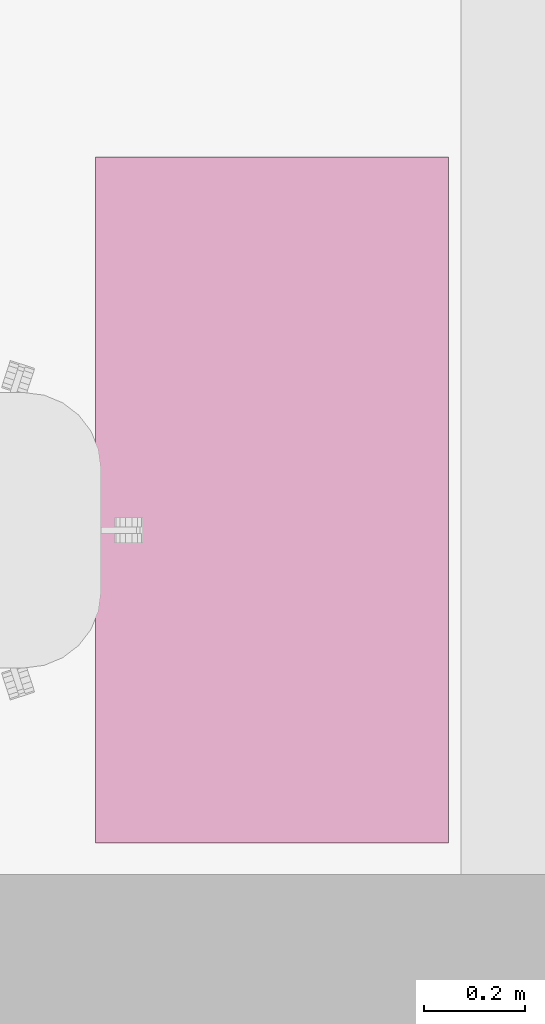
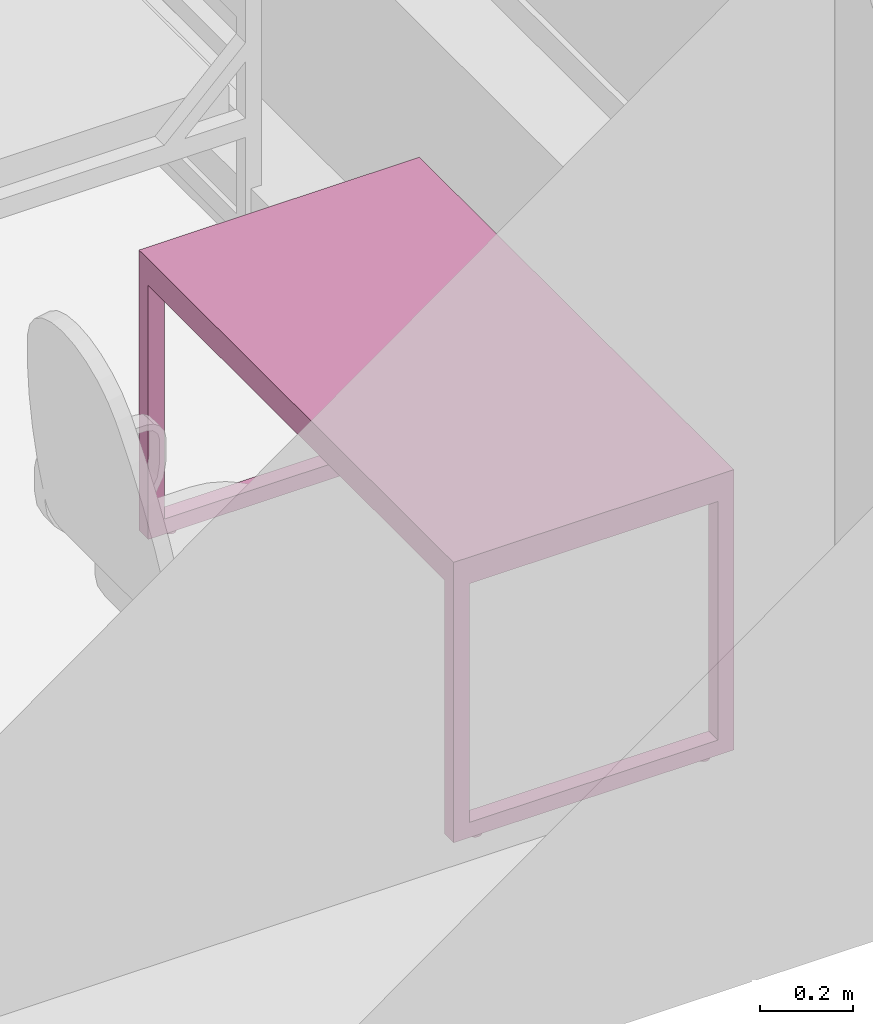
# One storey, part 41 of 46: 1 furnishing.
"""IFC2X3 building model written with IfcOpenShell, lengths in millimetres."""

from ifc_helpers import new_model, entity, si_unit, converted_unit, derived_unit, direction, frame, origin, place, context, subcontext, project, spatial, faceted_brep, source, transform, mapped, material, material_list, type_object, type_shapes, element, save


model = new_model("IFC2X3")

# Units and contexts
model_context = context("Model", 3, precision=0.01, world=origin(), true_north=direction((6.12303176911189e-17, 1.0)))
body_context = subcontext(model_context, "Body", "Model", "MODEL_VIEW")
ifc_project = project(units=[si_unit("LENGTHUNIT", "METRE", prefix="MILLI"), si_unit("AREAUNIT", "SQUARE_METRE"), si_unit("VOLUMEUNIT", "CUBIC_METRE"), converted_unit("PLANEANGLEUNIT", "DEGREE", entity("IfcRatioMeasure", 0.0174532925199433), si_unit("PLANEANGLEUNIT", "RADIAN"), dimensions=[0, 0, 0, 0, 0, 0, 0]), si_unit("MASSUNIT", "GRAM", prefix="KILO"), derived_unit("MASSDENSITYUNIT", [(si_unit("MASSUNIT", "GRAM", prefix="KILO"), 1), (si_unit("LENGTHUNIT", "METRE"), -3)]), si_unit("TIMEUNIT", "SECOND"), si_unit("FREQUENCYUNIT", "HERTZ"), si_unit("THERMODYNAMICTEMPERATUREUNIT", "DEGREE_CELSIUS"), derived_unit("THERMALTRANSMITTANCEUNIT", [(si_unit("MASSUNIT", "GRAM", prefix="KILO"), 1), (si_unit("THERMODYNAMICTEMPERATUREUNIT", "KELVIN"), -1), (si_unit("TIMEUNIT", "SECOND"), -3)]), derived_unit("VOLUMETRICFLOWRATEUNIT", [(si_unit("LENGTHUNIT", "METRE"), 3), (si_unit("TIMEUNIT", "SECOND"), -1)]), si_unit("ELECTRICCURRENTUNIT", "AMPERE"), si_unit("ELECTRICVOLTAGEUNIT", "VOLT"), si_unit("POWERUNIT", "WATT"), si_unit("FORCEUNIT", "NEWTON", prefix="KILO"), si_unit("ILLUMINANCEUNIT", "LUX"), si_unit("LUMINOUSFLUXUNIT", "LUMEN"), si_unit("LUMINOUSINTENSITYUNIT", "CANDELA"), derived_unit("USERDEFINED", [(si_unit("MASSUNIT", "GRAM", prefix="KILO"), -1), (si_unit("LENGTHUNIT", "METRE"), -2), (si_unit("TIMEUNIT", "SECOND"), 3), (si_unit("LUMINOUSFLUXUNIT", "LUMEN"), 1)]), derived_unit("LINEARVELOCITYUNIT", [(si_unit("LENGTHUNIT", "METRE"), 1), (si_unit("TIMEUNIT", "SECOND"), -1)]), si_unit("PRESSUREUNIT", "PASCAL"), derived_unit("USERDEFINED", [(si_unit("LENGTHUNIT", "METRE"), -2), (si_unit("MASSUNIT", "GRAM", prefix="KILO"), 1), (si_unit("TIMEUNIT", "SECOND"), -2)]), derived_unit("LINEARFORCEUNIT", [(si_unit("MASSUNIT", "GRAM", prefix="KILO"), 1), (si_unit("LENGTHUNIT", "METRE"), 1), (si_unit("TIMEUNIT", "SECOND"), -2), (si_unit("LENGTHUNIT", "METRE"), -1)]), derived_unit("PLANARFORCEUNIT", [(si_unit("MASSUNIT", "GRAM", prefix="KILO"), 1), (si_unit("LENGTHUNIT", "METRE"), 1), (si_unit("TIMEUNIT", "SECOND"), -2), (si_unit("LENGTHUNIT", "METRE"), -2)])], contexts=[model_context])

# Site, building, storey, space
site_placement = place(None, origin())
site = spatial("IfcSite", under=ifc_project, at=site_placement, Name="Default", CompositionType="ELEMENT")
building_placement = place(site_placement, origin())
building = spatial("IfcBuilding", under=site, at=building_placement, Name="SMA ARH", CompositionType="ELEMENT")
storey_placement = place(building_placement, frame((0.0, 0.0, 9910.0)))
storey = spatial("IfcBuildingStorey", under=building, at=storey_placement, Name="4 Korrus", CompositionType="ELEMENT", Elevation=9909.9999999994)
space_placement = place(storey_placement, origin())
space = spatial("IfcSpace", under=storey, at=space_placement, Name="4-1", CompositionType="ELEMENT", InteriorOrExteriorSpace="INTERNAL")

# Furnishing
ifc_material = material(Name="<Unnamed>")
ifc_material_list = material_list([ifc_material, ifc_material])
furniture_type = type_object("IfcFurnitureType", Name="kirjutuslaud 1360x700mm:kirjutuslaud 1360x700mm", material=ifc_material_list)
shared_shape = source(origin(), body_context, "Body", "Brep", [
    faceted_brep([(680.0, -350.0, 720.0), (680.0, 350.0, 720.0), (680.0, 350.0, 750.0), (680.0, -350.0, 750.0), (-680.0, -350.0, 720.0), (-680.0, -350.0, 750.0), (-680.0, 350.0, 750.0), (-680.0, 350.0, 720.0)], [[[0, 1, 2, 3]], [[4, 5, 6, 7]], [[1, 0, 4, 7]], [[2, 1, 7, 6]], [[3, 2, 6, 5]], [[0, 3, 5, 4]]]),
    faceted_brep([(-640.0, -310.0, 680.0), (-640.0, 310.0, 680.0), (-640.0, 310.0, 720.0), (-640.0, -310.0, 720.0), (-680.0, -350.0, 720.0), (-680.0, 350.0, 720.0), (-680.0, 350.0, 10.0), (-680.0, -350.0, 10.0), (-680.0, 310.0, 680.0), (-680.0, -310.0, 680.0), (-680.0, -310.0, 50.0), (-680.0, 310.0, 50.0), (-640.0, -350.0, 10.0), (-640.0, -350.0, 680.0), (640.0, -350.0, 680.0), (640.0, -350.0, 10.0), (680.0, -350.0, 10.0), (680.0, -350.0, 720.0), (-640.0, 350.0, 10.0), (680.0, 350.0, 720.0), (680.0, 350.0, 10.0), (640.0, 350.0, 10.0), (640.0, 350.0, 680.0), (-640.0, 350.0, 680.0), (640.0, 310.0, 720.0), (640.0, -310.0, 720.0), (-640.0, 310.0, 50.0), (-640.0, -310.0, 50.0), (640.0, -310.0, 680.0), (640.0, 310.0, 680.0), (680.0, 310.0, 680.0), (680.0, 310.0, 50.0), (680.0, -310.0, 50.0), (680.0, -310.0, 680.0), (640.0, -310.0, 50.0), (640.0, 310.0, 50.0)], [[[0, 1, 2, 3]], [[4, 5, 6, 7], [8, 9, 10, 11]], [[4, 7, 12, 13, 14, 15, 16, 17]], [[18, 12, 7, 6]], [[6, 5, 19, 20, 21, 22, 23, 18]], [[19, 5, 4, 17], [2, 24, 25, 3]], [[26, 1, 8, 11]], [[27, 26, 11, 10]], [[0, 27, 10, 9]], [[1, 0, 9, 8]], [[14, 13, 0, 28]], [[24, 2, 1, 29]], [[3, 25, 28, 0]], [[17, 16, 20, 19], [30, 31, 32, 33]], [[21, 15, 14, 28, 34, 35, 29, 22]], [[20, 16, 15, 21]], [[31, 30, 29, 35]], [[32, 31, 35, 34]], [[33, 32, 34, 28]], [[30, 33, 28, 29]], [[29, 28, 25, 24]], [[29, 1, 23, 22]], [[12, 18, 23, 1, 26, 27, 0, 13]]]),
    faceted_brep([(-663.729456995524, -270.466136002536, 0.0), (-659.847171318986, -269.955023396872, 0.0), (-655.964885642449, -270.466136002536, 0.0), (-652.347171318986, -271.964642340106, 0.0), (-649.240569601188, -274.348421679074, 0.0), (-646.85679026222, -277.455023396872, 0.0), (-645.35828392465, -281.072737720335, 0.0), (-644.847171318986, -284.955023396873, 0.0), (-645.35828392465, -288.83730907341, 0.0), (-646.85679026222, -292.455023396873, 0.0), (-649.240569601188, -295.561625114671, 0.0), (-652.347171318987, -297.945404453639, 0.0), (-655.964885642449, -299.443910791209, 0.0), (-659.847171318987, -299.955023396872, 0.0), (-663.729456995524, -299.443910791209, 0.0), (-667.347171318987, -297.945404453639, 0.0), (-670.453773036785, -295.561625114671, 0.0), (-672.837552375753, -292.455023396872, 0.0), (-674.336058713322, -288.83730907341, 0.0), (-674.847171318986, -284.955023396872, 0.0), (-674.336058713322, -281.072737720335, 0.0), (-672.837552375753, -277.455023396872, 0.0), (-670.453773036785, -274.348421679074, 0.0), (-667.347171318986, -271.964642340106, 0.0), (-655.964885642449, -299.443910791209, 10.0), (-652.347171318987, -297.945404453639, 10.0), (-649.240569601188, -295.561625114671, 10.0), (-646.85679026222, -292.455023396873, 10.0), (-645.35828392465, -288.83730907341, 10.0), (-644.847171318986, -284.955023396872, 10.0), (-645.35828392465, -281.072737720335, 10.0), (-646.85679026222, -277.455023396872, 10.0), (-649.240569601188, -274.348421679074, 10.0), (-652.347171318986, -271.964642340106, 10.0), (-655.964885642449, -270.466136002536, 10.0), (-659.847171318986, -269.955023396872, 10.0), (-663.729456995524, -270.466136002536, 10.0), (-667.347171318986, -271.964642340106, 10.0), (-670.453773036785, -274.348421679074, 10.0), (-672.837552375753, -277.455023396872, 10.0), (-674.336058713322, -281.072737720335, 10.0), (-674.847171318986, -284.955023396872, 10.0), (-674.336058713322, -288.83730907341, 10.0), (-672.837552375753, -292.455023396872, 10.0), (-670.453773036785, -295.561625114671, 10.0), (-667.347171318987, -297.945404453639, 10.0), (-663.729456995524, -299.443910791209, 10.0), (-659.847171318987, -299.955023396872, 10.0)], [[[0, 1, 2, 3, 4, 5, 6, 7, 8, 9, 10, 11, 12, 13, 14, 15, 16, 17, 18, 19, 20, 21, 22, 23]], [[24, 25, 26, 27, 28, 29, 30, 31, 32, 33, 34, 35, 36, 37, 38, 39, 40, 41, 42, 43, 44, 45, 46, 47]], [[18, 42, 41, 19]], [[17, 43, 42, 18]], [[45, 44, 16, 15]], [[17, 16, 44, 43]], [[46, 45, 15, 14]], [[47, 46, 14, 13]], [[12, 24, 47, 13]], [[11, 25, 24, 12]], [[27, 26, 10, 9]], [[11, 10, 26, 25]], [[28, 27, 9, 8]], [[29, 28, 8, 7]], [[6, 30, 29, 7]], [[5, 31, 30, 6]], [[33, 32, 4, 3]], [[5, 4, 32, 31]], [[34, 33, 3, 2]], [[35, 34, 2, 1]], [[0, 36, 35, 1]], [[23, 37, 36, 0]], [[39, 38, 22, 21]], [[23, 22, 38, 37]], [[40, 39, 21, 20]], [[41, 40, 20, 19]]]),
    faceted_brep([(-655.964885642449, 270.466136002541, 10.0), (-652.347171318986, 271.964642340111, 10.0), (-649.240569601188, 274.348421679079, 10.0), (-646.85679026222, 277.455023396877, 10.0), (-645.35828392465, 281.07273772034, 10.0), (-644.847171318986, 284.955023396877, 10.0), (-645.35828392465, 288.837309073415, 10.0), (-646.85679026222, 292.455023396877, 10.0), (-649.240569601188, 295.561625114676, 10.0), (-652.347171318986, 297.945404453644, 10.0), (-655.964885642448, 299.443910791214, 10.0), (-659.847171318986, 299.955023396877, 10.0), (-663.729456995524, 299.443910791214, 10.0), (-667.347171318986, 297.945404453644, 10.0), (-670.453773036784, 295.561625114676, 10.0), (-672.837552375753, 292.455023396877, 10.0), (-674.336058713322, 288.837309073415, 10.0), (-674.847171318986, 284.955023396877, 10.0), (-674.336058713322, 281.07273772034, 10.0), (-672.837552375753, 277.455023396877, 10.0), (-670.453773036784, 274.348421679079, 10.0), (-667.347171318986, 271.964642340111, 10.0), (-663.729456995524, 270.466136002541, 10.0), (-659.847171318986, 269.955023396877, 10.0), (-655.964885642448, 299.443910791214, 0.0), (-652.347171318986, 297.945404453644, 0.0), (-649.240569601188, 295.561625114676, 0.0), (-646.85679026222, 292.455023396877, 0.0), (-645.35828392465, 288.837309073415, 0.0), (-644.847171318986, 284.955023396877, 0.0), (-645.35828392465, 281.07273772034, 0.0), (-646.85679026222, 277.455023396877, 0.0), (-649.240569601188, 274.348421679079, 0.0), (-652.347171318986, 271.964642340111, 0.0), (-655.964885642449, 270.466136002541, 0.0), (-659.847171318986, 269.955023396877, 0.0), (-663.729456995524, 270.466136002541, 0.0), (-667.347171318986, 271.964642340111, 0.0), (-670.453773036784, 274.348421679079, 0.0), (-672.837552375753, 277.455023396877, 0.0), (-674.336058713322, 281.07273772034, 0.0), (-674.847171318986, 284.955023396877, 0.0), (-674.336058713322, 288.837309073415, 0.0), (-672.837552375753, 292.455023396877, 0.0), (-670.453773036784, 295.561625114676, 0.0), (-667.347171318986, 297.945404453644, 0.0), (-663.729456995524, 299.443910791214, 0.0), (-659.847171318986, 299.955023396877, 0.0)], [[[0, 1, 2, 3, 4, 5, 6, 7, 8, 9, 10, 11, 12, 13, 14, 15, 16, 17, 18, 19, 20, 21, 22, 23]], [[24, 25, 26, 27, 28, 29, 30, 31, 32, 33, 34, 35, 36, 37, 38, 39, 40, 41, 42, 43, 44, 45, 46, 47]], [[40, 18, 17, 41]], [[39, 19, 18, 40]], [[21, 20, 38, 37]], [[39, 38, 20, 19]], [[22, 21, 37, 36]], [[23, 22, 36, 35]], [[34, 0, 23, 35]], [[33, 1, 0, 34]], [[3, 2, 32, 31]], [[33, 32, 2, 1]], [[4, 3, 31, 30]], [[5, 4, 30, 29]], [[28, 6, 5, 29]], [[27, 7, 6, 28]], [[9, 8, 26, 25]], [[27, 26, 8, 7]], [[10, 9, 25, 24]], [[11, 10, 24, 47]], [[46, 12, 11, 47]], [[45, 13, 12, 46]], [[15, 14, 44, 43]], [[45, 44, 14, 13]], [[16, 15, 43, 42]], [[17, 16, 42, 41]]]),
    faceted_brep([(656.270543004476, -270.466136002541, 0.0), (660.152828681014, -269.955023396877, 0.0), (664.035114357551, -270.466136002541, 0.0), (667.652828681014, -271.96464234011, 0.0), (670.759430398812, -274.348421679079, 0.0), (673.14320973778, -277.455023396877, 0.0), (674.64171607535, -281.072737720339, 0.0), (675.152828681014, -284.955023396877, 0.0), (674.64171607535, -288.837309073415, 0.0), (673.14320973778, -292.455023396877, 0.0), (670.759430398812, -295.561625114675, 0.0), (667.652828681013, -297.945404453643, 0.0), (664.035114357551, -299.443910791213, 0.0), (660.152828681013, -299.955023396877, 0.0), (656.270543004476, -299.443910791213, 0.0), (652.652828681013, -297.945404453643, 0.0), (649.546226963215, -295.561625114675, 0.0), (647.162447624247, -292.455023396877, 0.0), (645.663941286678, -288.837309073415, 0.0), (645.152828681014, -284.955023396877, 0.0), (645.663941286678, -281.072737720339, 0.0), (647.162447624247, -277.455023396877, 0.0), (649.546226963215, -274.348421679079, 0.0), (652.652828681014, -271.96464234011, 0.0), (664.035114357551, -299.443910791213, 10.0), (667.652828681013, -297.945404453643, 10.0), (670.759430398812, -295.561625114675, 10.0), (673.14320973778, -292.455023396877, 10.0), (674.64171607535, -288.837309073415, 10.0), (675.152828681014, -284.955023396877, 10.0), (674.64171607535, -281.072737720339, 10.0), (673.14320973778, -277.455023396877, 10.0), (670.759430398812, -274.348421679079, 10.0), (667.652828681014, -271.96464234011, 10.0), (664.035114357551, -270.466136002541, 10.0), (660.152828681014, -269.955023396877, 10.0), (656.270543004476, -270.466136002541, 10.0), (652.652828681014, -271.96464234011, 10.0), (649.546226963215, -274.348421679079, 10.0), (647.162447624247, -277.455023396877, 10.0), (645.663941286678, -281.072737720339, 10.0), (645.152828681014, -284.955023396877, 10.0), (645.663941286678, -288.837309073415, 10.0), (647.162447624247, -292.455023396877, 10.0), (649.546226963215, -295.561625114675, 10.0), (652.652828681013, -297.945404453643, 10.0), (656.270543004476, -299.443910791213, 10.0), (660.152828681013, -299.955023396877, 10.0)], [[[0, 1, 2, 3, 4, 5, 6, 7, 8, 9, 10, 11, 12, 13, 14, 15, 16, 17, 18, 19, 20, 21, 22, 23]], [[24, 25, 26, 27, 28, 29, 30, 31, 32, 33, 34, 35, 36, 37, 38, 39, 40, 41, 42, 43, 44, 45, 46, 47]], [[18, 42, 41, 19]], [[17, 43, 42, 18]], [[45, 44, 16, 15]], [[17, 16, 44, 43]], [[46, 45, 15, 14]], [[47, 46, 14, 13]], [[12, 24, 47, 13]], [[11, 25, 24, 12]], [[27, 26, 10, 9]], [[11, 10, 26, 25]], [[28, 27, 9, 8]], [[29, 28, 8, 7]], [[6, 30, 29, 7]], [[5, 31, 30, 6]], [[33, 32, 4, 3]], [[5, 4, 32, 31]], [[34, 33, 3, 2]], [[35, 34, 2, 1]], [[0, 36, 35, 1]], [[23, 37, 36, 0]], [[39, 38, 22, 21]], [[23, 22, 38, 37]], [[40, 39, 21, 20]], [[41, 40, 20, 19]]]),
    faceted_brep([(664.035114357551, 270.466136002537, 10.0), (667.652828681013, 271.964642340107, 10.0), (670.759430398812, 274.348421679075, 10.0), (673.14320973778, 277.455023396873, 10.0), (674.64171607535, 281.072737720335, 10.0), (675.152828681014, 284.955023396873, 10.0), (674.64171607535, 288.837309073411, 10.0), (673.14320973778, 292.455023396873, 10.0), (670.759430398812, 295.561625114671, 10.0), (667.652828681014, 297.94540445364, 10.0), (664.035114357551, 299.443910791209, 10.0), (660.152828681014, 299.955023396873, 10.0), (656.270543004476, 299.443910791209, 10.0), (652.652828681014, 297.94540445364, 10.0), (649.546226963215, 295.561625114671, 10.0), (647.162447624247, 292.455023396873, 10.0), (645.663941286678, 288.837309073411, 10.0), (645.152828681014, 284.955023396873, 10.0), (645.663941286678, 281.072737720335, 10.0), (647.162447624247, 277.455023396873, 10.0), (649.546226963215, 274.348421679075, 10.0), (652.652828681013, 271.964642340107, 10.0), (656.270543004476, 270.466136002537, 10.0), (660.152828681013, 269.955023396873, 10.0), (664.035114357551, 299.443910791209, 0.0), (667.652828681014, 297.94540445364, 0.0), (670.759430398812, 295.561625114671, 0.0), (673.14320973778, 292.455023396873, 0.0), (674.64171607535, 288.837309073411, 0.0), (675.152828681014, 284.955023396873, 0.0), (674.64171607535, 281.072737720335, 0.0), (673.14320973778, 277.455023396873, 0.0), (670.759430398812, 274.348421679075, 0.0), (667.652828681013, 271.964642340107, 0.0), (664.035114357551, 270.466136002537, 0.0), (660.152828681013, 269.955023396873, 0.0), (656.270543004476, 270.466136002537, 0.0), (652.652828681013, 271.964642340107, 0.0), (649.546226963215, 274.348421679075, 0.0), (647.162447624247, 277.455023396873, 0.0), (645.663941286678, 281.072737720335, 0.0), (645.152828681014, 284.955023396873, 0.0), (645.663941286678, 288.837309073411, 0.0), (647.162447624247, 292.455023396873, 0.0), (649.546226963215, 295.561625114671, 0.0), (652.652828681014, 297.94540445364, 0.0), (656.270543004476, 299.443910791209, 0.0), (660.152828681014, 299.955023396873, 0.0)], [[[0, 1, 2, 3, 4, 5, 6, 7, 8, 9, 10, 11, 12, 13, 14, 15, 16, 17, 18, 19, 20, 21, 22, 23]], [[24, 25, 26, 27, 28, 29, 30, 31, 32, 33, 34, 35, 36, 37, 38, 39, 40, 41, 42, 43, 44, 45, 46, 47]], [[40, 18, 17, 41]], [[39, 19, 18, 40]], [[21, 20, 38, 37]], [[39, 38, 20, 19]], [[22, 21, 37, 36]], [[23, 22, 36, 35]], [[34, 0, 23, 35]], [[33, 1, 0, 34]], [[3, 2, 32, 31]], [[33, 32, 2, 1]], [[4, 3, 31, 30]], [[5, 4, 30, 29]], [[28, 6, 5, 29]], [[27, 7, 6, 28]], [[9, 8, 26, 25]], [[27, 26, 8, 7]], [[10, 9, 25, 24]], [[11, 10, 24, 47]], [[46, 12, 11, 47]], [[45, 13, 12, 46]], [[15, 14, 44, 43]], [[45, 44, 14, 13]], [[16, 15, 43, 42]], [[17, 16, 42, 41]]]),
])
type_shapes(furniture_type, [shared_shape])
furnishing_placement = place(space_placement, frame((38025.0, 743.180198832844, 0.0), z_axis=(0.0, 0.0, 1.0), x_axis=(0.0, 1.0, 0.0)))
element("IfcFurnishingElement", 1, at=furnishing_placement, inside=space, type_object=furniture_type, Name="kirjutuslaud 1360x700mm:kirjutuslaud 1360x700mm", ObjectType="kirjutuslaud 1360x700mm:kirjutuslaud 1360x700mm", context=body_context, shape_type="MappedRepresentation", body=[
    mapped(shared_shape, transform((0.0, 0.0, 0.0), scale=1.0)),
])

save(model, "model.ifc")
